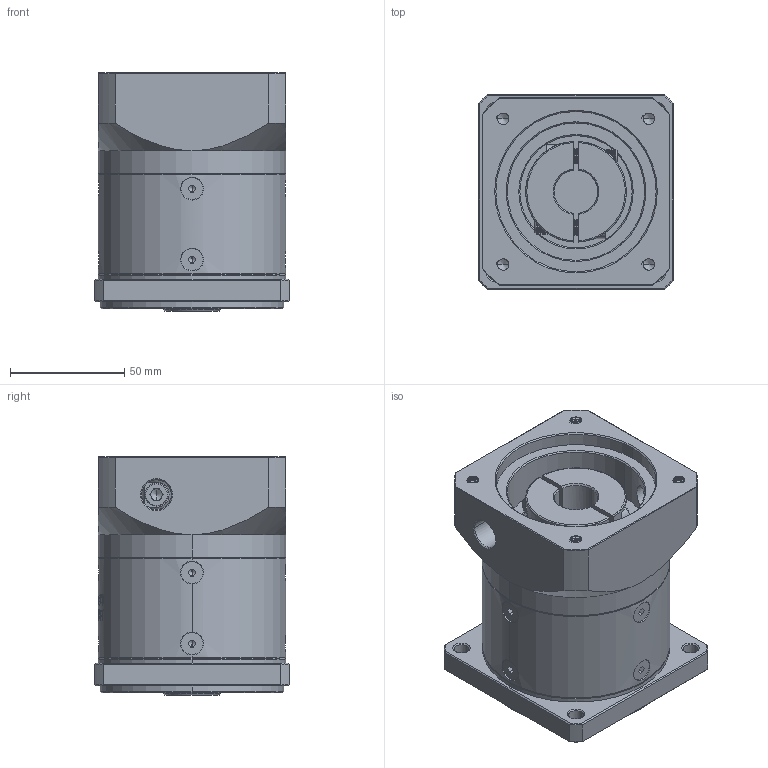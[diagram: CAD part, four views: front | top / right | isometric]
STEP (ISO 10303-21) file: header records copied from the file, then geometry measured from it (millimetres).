
FILE_DESCRIPTION (( 'STEP AP214' ), '1' );
FILE_NAME ('ZF080-K15-L1-P2-19-70-90-M6.step', '2023-08-19T05:35:03', ( '' ), ( '' ), 'SwSTEP 2.0', 'SolidWorks 2016', '' );
FILE_SCHEMA (( 'AUTOMOTIVE_DESIGN' ));
Length unit declared in the file: millimetre
Products named in the file (1): ZF080-K15-L1-P2-19-70-90-M6
Bounding box: 85 x 85 x 104 mm (x, y, z)
Volume: 514190.2 mm3; surface area: 85196 mm2
Topology: 13 solids, 13 shells, 2201 faces, 5781 edges, 3677 vertices
Faces by surface type: plane 1061, bspline 390, cylinder 384, cone 331, torus 35
Entity records: 117170 total; most frequent: CARTESIAN_POINT 43699, ORIENTED_EDGE 11506, DIRECTION 8504, EDGE_CURVE 5753, VERTEX_POINT 3677, LINE 3062, VECTOR 3062, AXIS2_PLACEMENT_3D 2721
